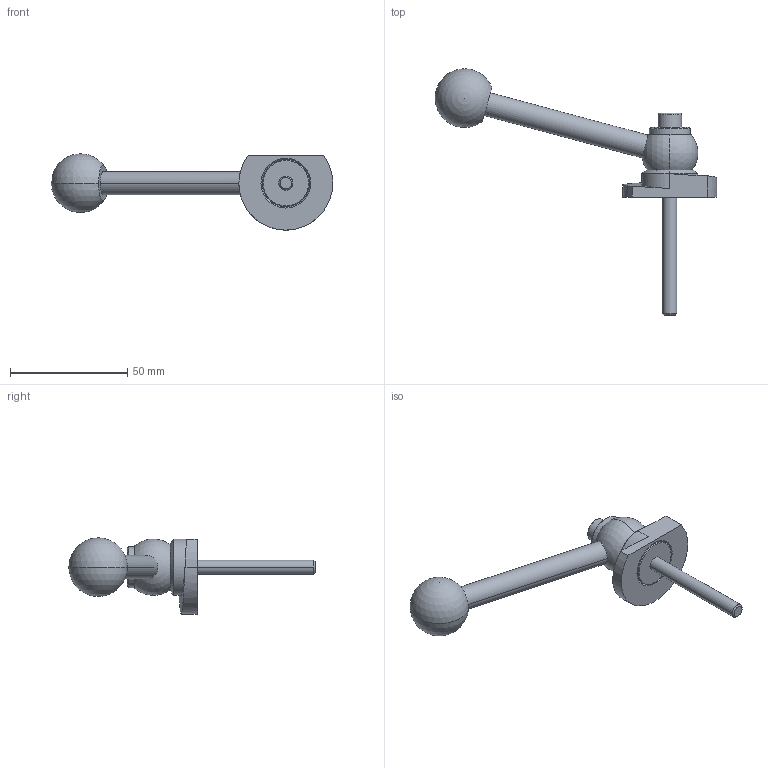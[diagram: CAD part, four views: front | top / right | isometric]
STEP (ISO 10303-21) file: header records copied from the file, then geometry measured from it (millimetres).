
FILE_DESCRIPTION (( 'STEP AP214' ), '1' );
FILE_NAME ('918.1-40-KVS-L-50.step', '2024-05-15T13:00:09', ( '' ), ( '' ), 'SwSTEP 2.0', 'SolidWorks 2022', '' );
FILE_SCHEMA (( 'AUTOMOTIVE_DESIGN' ));
Length unit declared in the file: millimetre
Products named in the file (1): 918.1-40-KVS-L-50
Bounding box: 119.95 x 104.99 x 32.5 mm (x, y, z)
Volume: 31164 mm3; surface area: 11778.5 mm2
Topology: 1 solids, 1 shells, 62 faces, 141 edges, 89 vertices
Faces by surface type: plane 20, cylinder 19, cone 14, sphere 4, bspline 3, torus 2
Entity records: 2003 total; most frequent: CARTESIAN_POINT 614, DIRECTION 304, ORIENTED_EDGE 262, EDGE_CURVE 131, AXIS2_PLACEMENT_3D 125, VERTEX_POINT 83, EDGE_LOOP 74, CIRCLE 65
